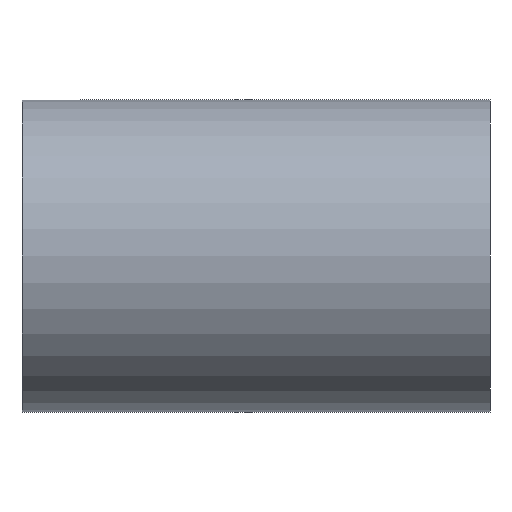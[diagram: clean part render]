
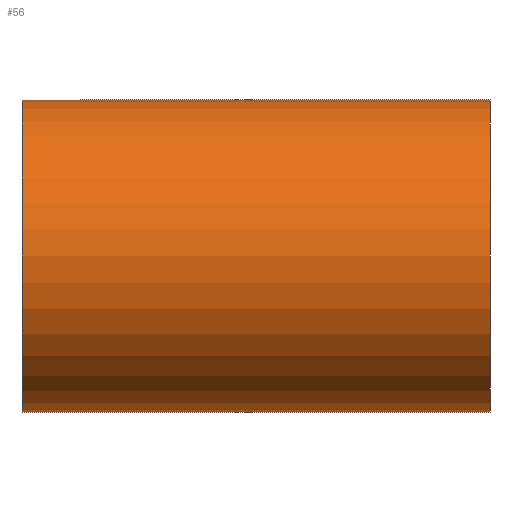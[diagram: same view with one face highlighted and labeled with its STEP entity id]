
A CAD part, front view. The second image highlights one B-rep face of the part: STEP entity #56.
In plain terms, the highlighted cylindrical face has radius 5 mm (diameter 10 mm), a partial arc.
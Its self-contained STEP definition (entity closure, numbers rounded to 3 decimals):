
#4 = DIRECTION ( 'NONE',  ( -1., 0., 0. ) ) ;
#23 = VERTEX_POINT ( 'NONE', #180 ) ;
#48 = LINE ( 'NONE', #223, #361 ) ;
#56 = ADVANCED_FACE ( 'NONE', ( #194 ), #452, .T. ) ;
#66 = DIRECTION ( 'NONE',  ( -1., 0., 0. ) ) ;
#69 = ORIENTED_EDGE ( 'NONE', *, *, #177, .F. ) ;
#122 = CIRCLE ( 'NONE', #414, 5. ) ;
#130 = DIRECTION ( 'NONE',  ( 0., 0., 1. ) ) ;
#140 = VERTEX_POINT ( 'NONE', #367 ) ;
#165 = CARTESIAN_POINT ( 'NONE',  ( 7.5, 0., 0. ) ) ;
#177 = EDGE_CURVE ( 'NONE', #23, #140, #48, .T. ) ;
#180 = CARTESIAN_POINT ( 'NONE',  ( 7.5, 0., -5. ) ) ;
#182 = DIRECTION ( 'NONE',  ( 0., 0., 1. ) ) ;
#194 = FACE_OUTER_BOUND ( 'NONE', #476, .T. ) ;
#205 = CARTESIAN_POINT ( 'NONE',  ( 0., 0., 5. ) ) ;
#207 = DIRECTION ( 'NONE',  ( -1., 0., 0. ) ) ;
#223 = CARTESIAN_POINT ( 'NONE',  ( 0., 0., -5. ) ) ;
#248 = ORIENTED_EDGE ( 'NONE', *, *, #556, .T. ) ;
#301 = AXIS2_PLACEMENT_3D ( 'NONE', #407, #467, #182 ) ;
#306 = CARTESIAN_POINT ( 'NONE',  ( 0., 0., 0. ) ) ;
#361 = VECTOR ( 'NONE', #728, 1000. ) ;
#367 = CARTESIAN_POINT ( 'NONE',  ( -7.5, 0., -5. ) ) ;
#407 = CARTESIAN_POINT ( 'NONE',  ( -7.5, 0., 0. ) ) ;
#410 = EDGE_CURVE ( 'NONE', #508, #509, #641, .T. ) ;
#414 = AXIS2_PLACEMENT_3D ( 'NONE', #165, #4, #433 ) ;
#420 = CARTESIAN_POINT ( 'NONE',  ( -7.5, 0., 5. ) ) ;
#433 = DIRECTION ( 'NONE',  ( 0., 0., 1. ) ) ;
#445 = AXIS2_PLACEMENT_3D ( 'NONE', #306, #66, #130 ) ;
#452 = CYLINDRICAL_SURFACE ( 'NONE', #445, 5. ) ;
#467 = DIRECTION ( 'NONE',  ( -1., 0., 0. ) ) ;
#476 = EDGE_LOOP ( 'NONE', ( #69, #248, #621, #525 ) ) ;
#508 = VERTEX_POINT ( 'NONE', #701 ) ;
#509 = VERTEX_POINT ( 'NONE', #420 ) ;
#525 = ORIENTED_EDGE ( 'NONE', *, *, #708, .F. ) ;
#556 = EDGE_CURVE ( 'NONE', #23, #508, #122, .T. ) ;
#563 = CIRCLE ( 'NONE', #301, 5. ) ;
#573 = VECTOR ( 'NONE', #207, 1000. ) ;
#621 = ORIENTED_EDGE ( 'NONE', *, *, #410, .T. ) ;
#641 = LINE ( 'NONE', #205, #573 ) ;
#701 = CARTESIAN_POINT ( 'NONE',  ( 7.5, 0., 5. ) ) ;
#708 = EDGE_CURVE ( 'NONE', #140, #509, #563, .T. ) ;
#728 = DIRECTION ( 'NONE',  ( -1., 0., 0. ) ) ;
